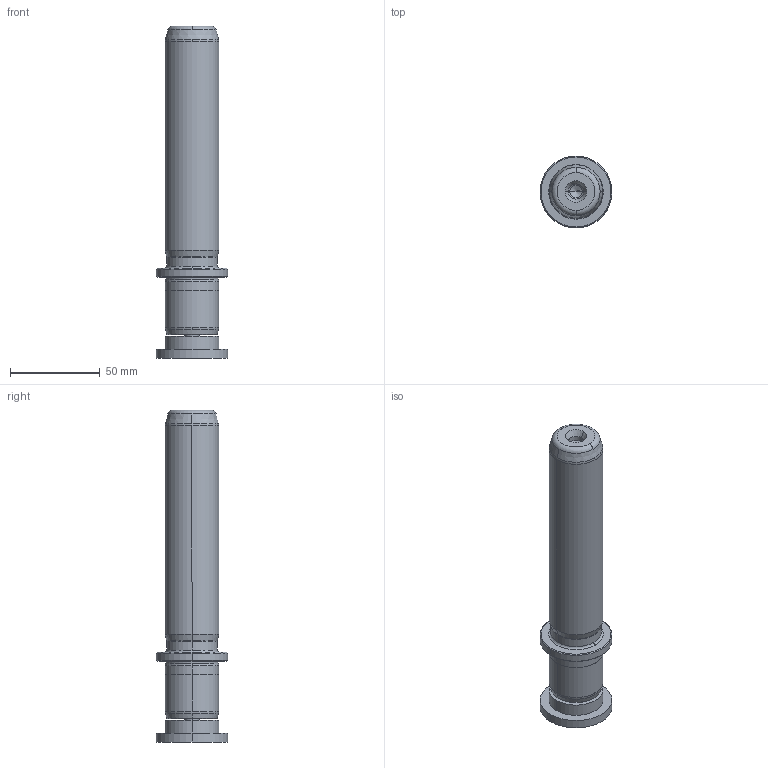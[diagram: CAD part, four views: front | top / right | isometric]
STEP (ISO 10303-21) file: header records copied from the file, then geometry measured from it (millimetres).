
FILE_DESCRIPTION((''),'2;1');
FILE_NAME('P22_030_140.stp','2009-02-03T10:19:53',(''),(''),'Mechanical Desktop 2009','Mechanical Desktop 2009',', , ');
FILE_SCHEMA(('CONFIG_CONTROL_DESIGN'));
Length unit declared in the file: millimetre
Products named in the file (2): Product; blmdl1
Assembly tree (1 placements, depth 2):
  Product
    blmdl1
Bounding box: 40 x 40 x 185 mm (x, y, z)
Volume: 131781.3 mm3; surface area: 24846.2 mm2
Topology: 3 solids, 3 shells, 99 faces, 237 edges, 149 vertices
Faces by surface type: cylinder 32, cone 28, plane 19, torus 10, bspline 10
Entity records: 3419 total; most frequent: CARTESIAN_POINT 923, DIRECTION 570, ORIENTED_EDGE 466, AXIS2_PLACEMENT_3D 246, EDGE_CURVE 233, CIRCLE 155, VERTEX_POINT 149, EDGE_LOOP 110
